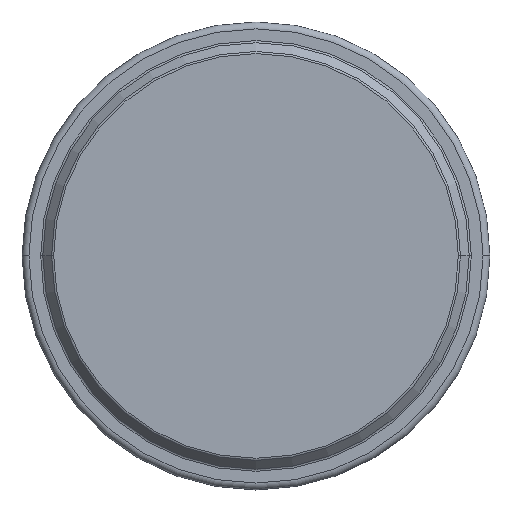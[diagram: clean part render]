
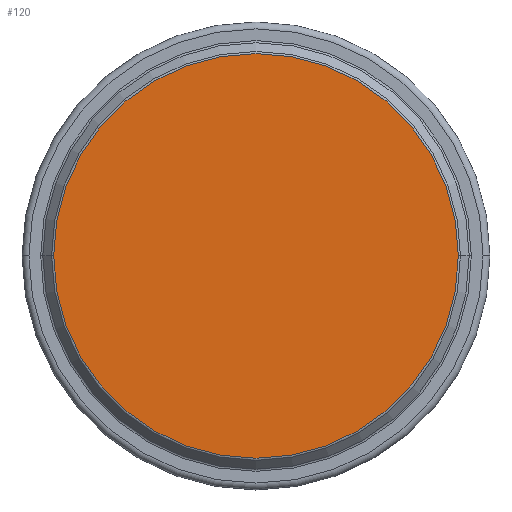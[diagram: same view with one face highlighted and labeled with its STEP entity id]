
A CAD part, top view. The second image highlights one B-rep face of the part: STEP entity #120.
In plain terms, the highlighted planar face has unit normal (0, 0, 1).
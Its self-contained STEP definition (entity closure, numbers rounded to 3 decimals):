
#63 = EDGE_LOOP ( 'NONE', ( #121, #122 ) ) ;
#120 = ADVANCED_FACE ( 'NONE', ( #430 ), #426, .T. ) ;
#121 = ORIENTED_EDGE ( 'NONE', *, *, #1185, .T. ) ;
#122 = ORIENTED_EDGE ( 'NONE', *, *, #123, .T. ) ;
#123 = EDGE_CURVE ( 'NONE', #1182, #1184, #424, .T. ) ;
#417 = DIRECTION ( 'NONE',  ( 1., 0., 0. ) ) ;
#418 = DIRECTION ( 'NONE',  ( 0., 0., 1. ) ) ;
#419 = CARTESIAN_POINT ( 'NONE',  ( 0., 0., 0. ) ) ;
#420 = AXIS2_PLACEMENT_3D ( 'NONE', #419, #418, #417 ) ;
#421 = DIRECTION ( 'NONE',  ( 1., 0., 0. ) ) ;
#422 = DIRECTION ( 'NONE',  ( 0., 0., 1. ) ) ;
#423 = CARTESIAN_POINT ( 'NONE',  ( 0., 0., 0. ) ) ;
#424 = CIRCLE ( 'NONE', #420, 29.313 ) ;
#425 = AXIS2_PLACEMENT_3D ( 'NONE', #423, #422, #421 ) ;
#426 = PLANE ( 'NONE',  #425 ) ;
#430 = FACE_OUTER_BOUND ( 'NONE', #63, .T. ) ;
#719 = CARTESIAN_POINT ( 'NONE',  ( 29.313, 0., 0. ) ) ;
#722 = CARTESIAN_POINT ( 'NONE',  ( -29.313, 0., 0. ) ) ;
#764 = DIRECTION ( 'NONE',  ( 1., 0., 0. ) ) ;
#765 = DIRECTION ( 'NONE',  ( 0., 0., 1. ) ) ;
#766 = CARTESIAN_POINT ( 'NONE',  ( 0., 0., 0. ) ) ;
#767 = AXIS2_PLACEMENT_3D ( 'NONE', #766, #765, #764 ) ;
#768 = CIRCLE ( 'NONE', #767, 29.313 ) ;
#1182 = VERTEX_POINT ( 'NONE', #722 ) ;
#1184 = VERTEX_POINT ( 'NONE', #719 ) ;
#1185 = EDGE_CURVE ( 'NONE', #1184, #1182, #768, .T. ) ;
